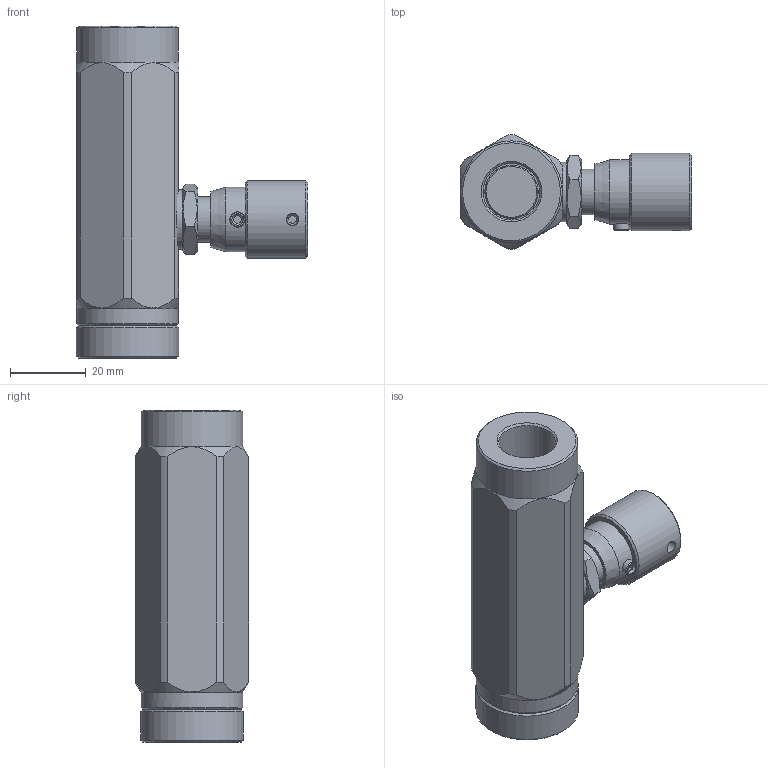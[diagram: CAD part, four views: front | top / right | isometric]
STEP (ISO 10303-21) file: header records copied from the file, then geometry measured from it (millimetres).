
FILE_DESCRIPTION(/* description */ ('Unknown'),/* implementation_level */ '2;1');
FILE_NAME(/* name */ 'STUC38',/* time_stamp */ '2024-12-05T10:40:33+01:00',/* author */ ('Unknown'),/* organization */ ('Unknown'),/* preprocessor_version */ 'ST-DEVELOPER v19.4',/* originating_system */ 'Solid Edge',/* authorisation */ 'Unknown');
FILE_SCHEMA (('CONFIG_CONTROL_DESIGN','AUTOMOTIVE_DESIGN {1 0 10303 214 3 1 1}'));
Length unit declared in the file: millimetre
Products named in the file (1): STUC38
Bounding box: 61 x 29.99 x 87.5 mm (x, y, z)
Volume: 48788 mm3; surface area: 21482.3 mm2
Topology: 1 solids, 1 shells, 185 faces, 504 edges, 336 vertices
Faces by surface type: plane 78, cylinder 63, cone 42, bspline 1, torus 1
Full cylindrical faces by diameter (mm): 2.5 x8, 3 x6, 3.242 x1, 4 x5, 5 x3, 6 x1, 8 x1, 8.5 x1, 10.95 x2, 11 x1, 12 x1, 13 x1, 14 x2, 14.95 x2, 15 x2, 15.65 x1, 16.376 x1, 16.95 x1, 18 x1, 20.376 x2, 20.5 x1, 26.8 x2, 27 x1
Entity records: 10161 total; most frequent: CARTESIAN_POINT 5058, DIRECTION 731, ORIENTED_EDGE 672, EDGE_CURVE 336, FACE_BOUND 331, EDGE_LOOP 329, AXIS2_PLACEMENT_3D 321, VERTEX_POINT 263
